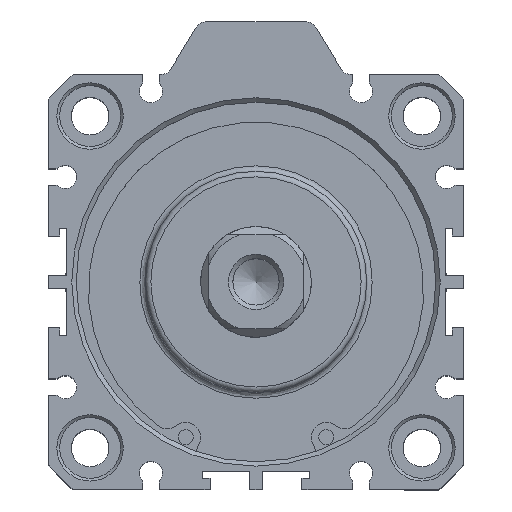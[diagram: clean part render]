
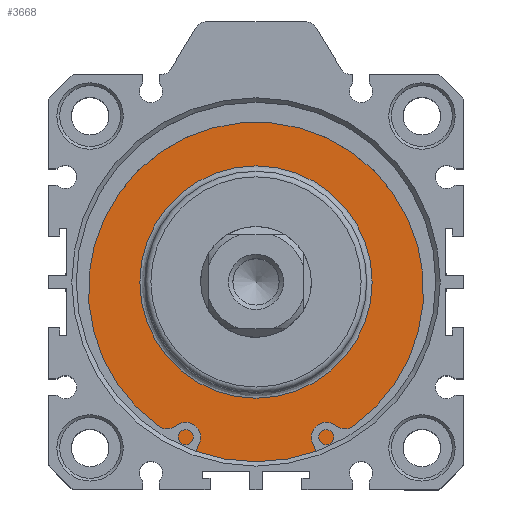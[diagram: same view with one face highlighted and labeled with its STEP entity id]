
A CAD part, top view. The second image highlights one B-rep face of the part: STEP entity #3668.
In plain terms, the highlighted planar face has unit normal (0, 0, 1).
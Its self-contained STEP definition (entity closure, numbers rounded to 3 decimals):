
#3617=CARTESIAN_POINT('',(0.359,19.684,57.3));
#3618=VERTEX_POINT('',#3617);
#3619=CARTESIAN_POINT('',(0.359,-1.316,57.3));
#3620=DIRECTION('',(0.0,0.0,1.0));
#3621=DIRECTION('',(0.0,-1.0,0.0));
#3622=AXIS2_PLACEMENT_3D('',#3619,#3620,#3621);
#3623=CIRCLE('',#3622,21.0);
#3624=EDGE_CURVE('',#3618,#3618,#3623,.T.);
#3649=CARTESIAN_POINT('',(0.359,24.934,57.3));
#3650=DIRECTION('',(0.0,0.0,1.0));
#3651=DIRECTION('',(1.0,0.0,0.0));
#3652=AXIS2_PLACEMENT_3D('',#3649,#3650,#3651);
#3653=PLANE('',#3652);
#3654=CARTESIAN_POINT('',(0.359,31.184,57.3));
#3655=VERTEX_POINT('',#3654);
#3656=CARTESIAN_POINT('',(0.359,-1.316,57.3));
#3657=DIRECTION('',(0.0,0.0,-1.0));
#3658=DIRECTION('',(0.0,1.0,0.0));
#3659=AXIS2_PLACEMENT_3D('',#3656,#3657,#3658);
#3660=CIRCLE('',#3659,32.5);
#3661=EDGE_CURVE('',#3655,#3655,#3660,.T.);
#3662=ORIENTED_EDGE('',*,*,#3661,.F.);
#3663=EDGE_LOOP('',(#3662));
#3664=FACE_OUTER_BOUND('',#3663,.T.);
#3665=ORIENTED_EDGE('',*,*,#3624,.F.);
#3666=EDGE_LOOP('',(#3665));
#3667=FACE_BOUND('',#3666,.T.);
#3668=ADVANCED_FACE('',(#3664,#3667),#3653,.T.);
